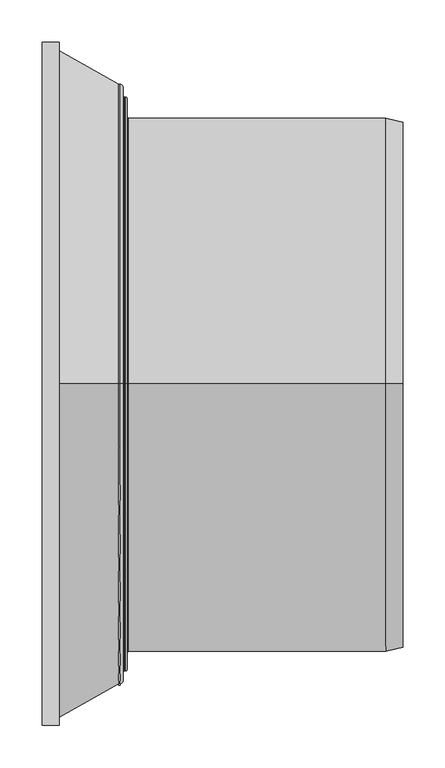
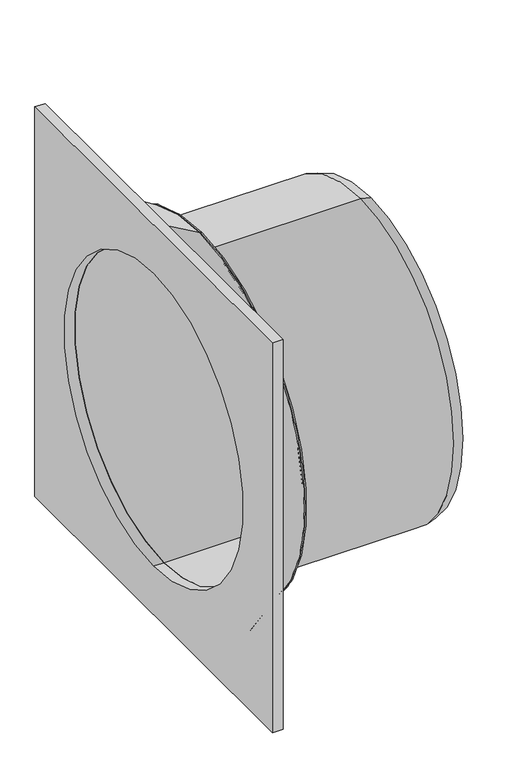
"""IFC4 building model written with IfcOpenShell, lengths in millimetres: proxy geometry, GRAF EcoBloc adaptor plate DN600 : GRAF EcoBloc adaptor plate DN600."""

from ifc_helpers import new_model, si_unit, point, frame, frame_2d, origin, place, context, project, spatial, polyline, circle_curve, ellipse_curve, trimmed, segment, composite_curve, outline, extrude, source, transform, mapped, element, save
from ifc_brep_helpers import plane_surface, cylinder_surface, revolved_surface, advanced_brep


def specialty_equipment_a2e9a65d(model_context):
    return source(origin(), model_context, "Body", "SolidModel", [
        advanced_brep(
        [(-732.5, 0.0, 712.5), (-732.5, 0.0, 92.5), (-732.5, 0.0, 100.0), (-732.5, 0.0, 705.0), (-752.5, 0.0, 717.5), (-752.5, 0.0, 87.5), (-1055.5, 0.0, 717.5), (-1055.5, 0.0, 87.5), (-1057.5, 0.0, 719.5), (-1057.5, 0.0, 85.5), (-1057.5, 0.0, 740.5), (-1057.5, 0.0, 64.5), (-1059.5, 0.0, 742.5), (-1059.5, 0.0, 62.5), (-1060.5, 0.0, 742.5), (-1060.5, 0.0, 62.5), (-1062.5, 0.0, 744.5), (-1062.5, 0.0, 60.5), (-1062.5, 0.0, 754.5), (-1062.5, 0.0, 50.5), (-1065.5, 0.0, 757.5), (-1065.5, 0.0, 47.5), (-1067.5, 0.0, 757.5), (-1067.5, 0.0, 47.5), (-1137.5, 0.0, 797.5), (-1137.5, 0.0, 7.5), (-1137.5, 0.0, 705.0), (-1137.5, 0.0, 100.0)],
        [
            (0, 1, circle_curve(frame((-732.5, 0.0, 402.5), z_axis=(1.0, 0.0, 0.0), x_axis=(0.0, 0.0, -1.0)), 310.0)),
            (1, 2),
            (2, 3, circle_curve(frame((-732.5, 0.0, 402.5), z_axis=(-1.0, 0.0, 0.0), x_axis=(0.0, 0.0, -1.0)), 302.5)),
            (3, 0),
            (1, 0, circle_curve(frame((-732.5, 0.0, 402.5), z_axis=(1.0, 0.0, 0.0), x_axis=(0.0, 0.0, -1.0)), 310.0)),
            (3, 2, circle_curve(frame((-732.5, 0.0, 402.5), z_axis=(-1.0, 0.0, 0.0), x_axis=(0.0, 0.0, -1.0)), 302.5)),
            (4, 5, circle_curve(frame((-752.5, 0.0, 402.5), z_axis=(1.0, 0.0, 0.0), x_axis=(0.0, 0.0, -1.0)), 315.0)),
            (5, 1),
            (0, 4),
            (5, 4, circle_curve(frame((-752.5, 0.0, 402.5), z_axis=(1.0, 0.0, 0.0), x_axis=(0.0, 0.0, -1.0)), 315.0)),
            (6, 7, circle_curve(frame((-1055.5, 0.0, 402.5), z_axis=(1.0, 0.0, 0.0), x_axis=(0.0, 0.0, -1.0)), 315.0)),
            (7, 5),
            (4, 6),
            (7, 6, circle_curve(frame((-1055.5, 0.0, 402.5), z_axis=(1.0, 0.0, 0.0), x_axis=(0.0, 0.0, -1.0)), 315.0)),
            (8, 9, circle_curve(frame((-1057.5, 0.0, 402.5), z_axis=(1.0, 0.0, 0.0), x_axis=(0.0, 0.0, -1.0)), 317.0)),
            (9, 7, circle_curve(frame((-1055.5, 0.0, 85.5), z_axis=(0.0, 1.0, 0.0), x_axis=(-5.304356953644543e-12, 0.0, 1.0)), 2.0)),
            (6, 8, circle_curve(frame((-1055.5, 0.0, 719.5), z_axis=(0.0, 1.0, 0.0), x_axis=(-5.304356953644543e-12, 0.0, -1.0)), 2.0)),
            (9, 8, circle_curve(frame((-1057.5, 0.0, 402.5), z_axis=(1.0, 0.0, 0.0), x_axis=(0.0, 0.0, -1.0)), 317.0)),
            (10, 11, circle_curve(frame((-1057.5, 0.0, 402.5), z_axis=(1.0, 0.0, 0.0), x_axis=(0.0, 0.0, -1.0)), 338.0)),
            (11, 9),
            (8, 10),
            (11, 10, circle_curve(frame((-1057.5, 0.0, 402.5), z_axis=(1.0, 0.0, 0.0), x_axis=(0.0, 0.0, -1.0)), 338.0)),
            (12, 13, circle_curve(frame((-1059.5, 0.0, 402.5), z_axis=(1.0, 0.0, 0.0), x_axis=(0.0, 0.0, -1.0)), 340.0)),
            (13, 11, circle_curve(frame((-1059.5, 0.0, 64.5), z_axis=(0.0, -1.0, 0.0), x_axis=(1.0, 0.0, -2.7071678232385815e-12)), 2.0)),
            (10, 12, circle_curve(frame((-1059.5, 0.0, 740.5), z_axis=(0.0, -1.0, 0.0), x_axis=(1.0, 0.0, 2.7071678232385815e-12)), 2.0)),
            (13, 12, circle_curve(frame((-1059.5, 0.0, 402.5), z_axis=(1.0, 0.0, 0.0), x_axis=(0.0, 0.0, -1.0)), 340.0)),
            (14, 15, circle_curve(frame((-1060.5, 0.0, 402.5), z_axis=(1.0, 0.0, 0.0), x_axis=(0.0, 0.0, -1.0)), 340.0)),
            (15, 13),
            (12, 14),
            (15, 14, circle_curve(frame((-1060.5, 0.0, 402.5), z_axis=(1.0, 0.0, 0.0), x_axis=(0.0, 0.0, -1.0)), 340.0)),
            (16, 17, circle_curve(frame((-1062.5, 0.0, 402.5), z_axis=(1.0, 0.0, 0.0), x_axis=(0.0, 0.0, -1.0)), 342.0)),
            (17, 15, circle_curve(frame((-1060.5, 0.0, 60.5), z_axis=(0.0, 1.0, 0.0), x_axis=(-2.7325475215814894e-12, 0.0, 1.0)), 2.0)),
            (14, 16, circle_curve(frame((-1060.5, 0.0, 744.5), z_axis=(0.0, 1.0, 0.0), x_axis=(-2.7325475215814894e-12, 0.0, -1.0)), 2.0)),
            (17, 16, circle_curve(frame((-1062.5, 0.0, 402.5), z_axis=(1.0, 0.0, 0.0), x_axis=(0.0, 0.0, -1.0)), 342.0)),
            (18, 19, circle_curve(frame((-1062.5, 0.0, 402.5), z_axis=(1.0, 0.0, 0.0), x_axis=(0.0, 0.0, -1.0)), 352.0)),
            (19, 17),
            (16, 18),
            (19, 18, circle_curve(frame((-1062.5, 0.0, 402.5), z_axis=(1.0, 0.0, 0.0), x_axis=(0.0, 0.0, -1.0)), 352.0)),
            (20, 21, circle_curve(frame((-1065.5, 0.0, 402.5), z_axis=(1.0, 0.0, 0.0), x_axis=(0.0, 0.0, -1.0)), 355.0)),
            (21, 19, circle_curve(frame((-1065.5, 0.0, 50.5), z_axis=(0.0, -1.0, 0.0), x_axis=(1.0, 0.0, 0.0)), 3.0)),
            (18, 20, circle_curve(frame((-1065.5, 0.0, 754.5), z_axis=(0.0, -1.0, 0.0), x_axis=(1.0, 0.0, 0.0)), 3.0)),
            (21, 20, circle_curve(frame((-1065.5, 0.0, 402.5), z_axis=(1.0, 0.0, 0.0), x_axis=(0.0, 0.0, -1.0)), 355.0)),
            (22, 23, circle_curve(frame((-1067.5, 0.0, 402.5), z_axis=(1.0, 0.0, 0.0), x_axis=(0.0, 0.0, -1.0)), 355.0)),
            (23, 21),
            (20, 22),
            (23, 22, circle_curve(frame((-1067.5, 0.0, 402.5), z_axis=(1.0, 0.0, 0.0), x_axis=(0.0, 0.0, -1.0)), 355.0)),
            (24, 25, circle_curve(frame((-1137.5, 0.0, 402.5), z_axis=(1.0, 0.0, 0.0), x_axis=(0.0, 0.0, -1.0)), 395.0)),
            (25, 23),
            (22, 24),
            (25, 24, circle_curve(frame((-1137.5, 0.0, 402.5), z_axis=(1.0, 0.0, 0.0), x_axis=(0.0, 0.0, -1.0)), 395.0)),
            (26, 27, circle_curve(frame((-1137.5, 0.0, 402.5), z_axis=(1.0, 0.0, 0.0), x_axis=(0.0, 0.0, -1.0)), 302.5)),
            (27, 25),
            (24, 26),
            (27, 26, circle_curve(frame((-1137.5, 0.0, 402.5), z_axis=(1.0, 0.0, 0.0), x_axis=(0.0, 0.0, -1.0)), 302.5)),
            (2, 27),
            (26, 3),
        ],
        [
            plane_surface(frame((-732.5, 0.0, 402.5), z_axis=(1.0, 0.0, 0.0), x_axis=(0.0, 0.0, -1.0))),
            revolved_surface(polyline([(-732.5, 0.0, 92.5), (-752.5, 0.0, 87.5)]), (-732.5, 0.0, 402.5), (-1.0, 0.0, 0.0)),
            cylinder_surface(frame((-732.5, 0.0, 402.5), z_axis=(-1.0, 0.0, 0.0), x_axis=(0.0, 0.0, -1.0)), 315.0),
            revolved_surface(trimmed(ellipse_curve(frame((-1055.5, 0.0, 85.5), z_axis=(0.0, -1.0, 0.0), x_axis=(-5.304356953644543e-12, 0.0, 1.0)), 2.0, 2.0), [point((-1055.5, 0.0, 87.5))], [point((-1057.5, 0.0, 85.5))], True, "CARTESIAN"), (-732.5, 0.0, 402.5), (-1.0, 0.0, 0.0)),
            plane_surface(frame((-1057.5, 0.0, 402.5), z_axis=(1.0, 0.0, 0.0), x_axis=(0.0, 0.0, -1.0))),
            revolved_surface(trimmed(ellipse_curve(frame((-1059.5, 0.0, 64.5), z_axis=(0.0, 1.0, 0.0), x_axis=(1.0, 0.0, -2.7071678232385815e-12)), 2.0, 2.0), [point((-1057.5, 0.0, 64.5))], [point((-1059.5, 0.0, 62.5))], True, "CARTESIAN"), (-732.5, 0.0, 402.5), (-1.0, 0.0, 0.0)),
            cylinder_surface(frame((-732.5, 0.0, 402.5), z_axis=(-1.0, 0.0, 0.0), x_axis=(0.0, 0.0, -1.0)), 340.0),
            revolved_surface(trimmed(ellipse_curve(frame((-1060.5, 0.0, 60.5), z_axis=(0.0, -1.0, 0.0), x_axis=(-2.7325475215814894e-12, 0.0, 1.0)), 2.0, 2.0), [point((-1060.5, 0.0, 62.5))], [point((-1062.5, 0.0, 60.5))], True, "CARTESIAN"), (-732.5, 0.0, 402.5), (-1.0, 0.0, 0.0)),
            plane_surface(frame((-1062.5, 0.0, 402.5), z_axis=(1.0, 0.0, 0.0), x_axis=(0.0, 0.0, -1.0))),
            revolved_surface(trimmed(ellipse_curve(frame((-1065.5, 0.0, 50.5), z_axis=(0.0, 1.0, 0.0), x_axis=(1.0, 0.0, 0.0)), 3.0, 3.0), [point((-1062.5, 0.0, 50.5))], [point((-1065.5, 0.0, 47.5))], True, "CARTESIAN"), (-732.5, 0.0, 402.5), (-1.0, 0.0, 0.0)),
            cylinder_surface(frame((-732.5, 0.0, 402.5), z_axis=(-1.0, 0.0, 0.0), x_axis=(0.0, 0.0, -1.0)), 355.0),
            revolved_surface(polyline([(-1067.5, 0.0, 47.5), (-1137.5, 0.0, 7.5)]), (-732.5, 0.0, 402.5), (-1.0, 0.0, 0.0)),
            plane_surface(frame((-1137.5, 0.0, 402.5), z_axis=(-1.0, 0.0, 0.0), x_axis=(0.0, 0.0, -1.0))),
            revolved_surface(polyline([(-1137.5, 0.0, 100.0), (-732.5, 0.0, 100.0)]), (-732.5, 0.0, 402.5), (-1.0, 0.0, 0.0)),
        ],
        [
            (0, [[1, 2, 3, 4]]),
            (0, [[5, -4, 6, -2]]),
            (1, [[7, 8, -1, 9]]),
            (1, [[10, -9, -5, -8]]),
            (2, [[11, 12, -7, 13]]),
            (2, [[14, -13, -10, -12]]),
            (3, [[15, 16, -11, 17]]),
            (3, [[18, -17, -14, -16]]),
            (4, [[19, 20, -15, 21]]),
            (4, [[22, -21, -18, -20]]),
            (5, [[23, 24, -19, 25]]),
            (5, [[26, -25, -22, -24]]),
            (6, [[27, 28, -23, 29]]),
            (6, [[30, -29, -26, -28]]),
            (7, [[31, 32, -27, 33]]),
            (7, [[34, -33, -30, -32]]),
            (8, [[35, 36, -31, 37]]),
            (8, [[38, -37, -34, -36]]),
            (9, [[39, 40, -35, 41]]),
            (9, [[42, -41, -38, -40]]),
            (10, [[43, 44, -39, 45]]),
            (10, [[46, -45, -42, -44]]),
            (11, [[47, 48, -43, 49]]),
            (11, [[50, -49, -46, -48]]),
            (12, [[51, 52, -47, 53]]),
            (12, [[54, -53, -50, -52]]),
            (13, [[-3, 55, -51, 56]]),
            (13, [[-6, -56, -54, -55]]),
        ],
    ),
        extrude(outline(polyline([(-402.5, 805.0), (402.5, 805.0), (402.5, 0.0), (-402.5, 0.0), (-402.5, 805.0)]), holes=[composite_curve([segment(trimmed(circle_curve(frame_2d((0.0, 402.5)), 302.5), [point((0.0, 705.0))], [point((0.0, 100.0))], True, "CARTESIAN"), True, "CONTINUOUS"), segment(trimmed(circle_curve(frame_2d((0.0, 402.5)), 302.5), [point((0.0, 100.0))], [point((0.0, 705.0))], True, "CARTESIAN"), True, "CONTINUOUS")], self_intersect=False)]), frame((-1157.5, 0.0, 0.0), z_axis=(1.0, 0.0, 0.0), x_axis=(0.0, 1.0, 0.0)), (0.0, 0.0, 1.0), 20.0),
    ])


if __name__ == "__main__":
    model = new_model("IFC4")
    model_context = context("Model", 3, world=origin())
    ifc_project = project(units=[si_unit("LENGTHUNIT", "METRE", prefix="MILLI")], contexts=[model_context])
    site = spatial("IfcSite", under=ifc_project)
    building = spatial("IfcBuilding", under=site)
    placement = place(None, origin())
    specialty_equipment_shape = specialty_equipment_a2e9a65d(model_context)
    element("IfcBuildingElementProxy", 1, Name="GRAF EcoBloc adaptor plate DN600 : GRAF EcoBloc adaptor plate DN600", ObjectType="GRAF EcoBloc adaptor plate DN600 : GRAF EcoBloc adaptor plate DN600", at=placement, inside=building, context=model_context, shape_type="MappedRepresentation", body=[
        mapped(specialty_equipment_shape, transform((0.0, 0.0, 0.0), x_axis=(1.0, 0.0, 0.0), y_axis=(0.0, 1.0, 0.0), z_axis=(0.0, 0.0, 1.0))),
    ])
    save(model, "model.ifc")
